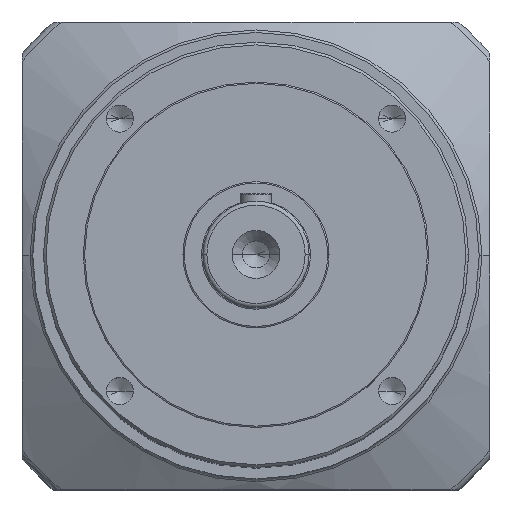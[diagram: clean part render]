
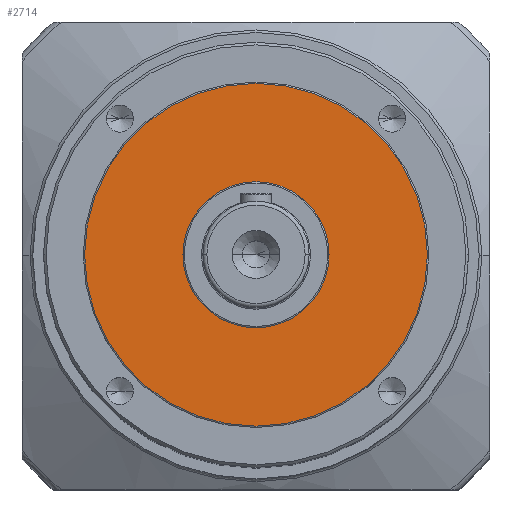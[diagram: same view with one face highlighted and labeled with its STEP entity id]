
A CAD part, top view. The second image highlights one B-rep face of the part: STEP entity #2714.
In plain terms, the highlighted planar face has unit normal (0, 0, 1).
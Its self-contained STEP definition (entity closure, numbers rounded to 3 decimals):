
#173 = FACE_OUTER_BOUND ( 'NONE', #3386, .T. ) ;
#426 = CARTESIAN_POINT ( 'NONE',  ( 0., 0., 5. ) ) ;
#799 = CARTESIAN_POINT ( 'NONE',  ( 27.5, 0., 5. ) ) ;
#817 = AXIS2_PLACEMENT_3D ( 'NONE', #4634, #1885, #5106 ) ;
#1298 = CARTESIAN_POINT ( 'NONE',  ( -64.5, 0., 5. ) ) ;
#1363 = DIRECTION ( 'NONE',  ( 0., 0., 1. ) ) ;
#1525 = AXIS2_PLACEMENT_3D ( 'NONE', #4824, #2072, #5293 ) ;
#1560 = ORIENTED_EDGE ( 'NONE', *, *, #3432, .T. ) ;
#1652 = CIRCLE ( 'NONE', #817, 27.5 ) ;
#1699 = CARTESIAN_POINT ( 'NONE',  ( -27.5, 0., 5. ) ) ;
#1725 = CARTESIAN_POINT ( 'NONE',  ( 64.5, 0., 5. ) ) ;
#1726 = EDGE_LOOP ( 'NONE', ( #4051, #5660 ) ) ;
#1777 = DIRECTION ( 'NONE',  ( 1., 0., 0. ) ) ;
#1823 = CARTESIAN_POINT ( 'NONE',  ( 0., 0., 5. ) ) ;
#1885 = DIRECTION ( 'NONE',  ( 0., 0., 1. ) ) ;
#1897 = CARTESIAN_POINT ( 'NONE',  ( 0., 0., 5. ) ) ;
#1953 = DIRECTION ( 'NONE',  ( 0., 0., 1. ) ) ;
#2044 = AXIS2_PLACEMENT_3D ( 'NONE', #426, #1363, #4585 ) ;
#2072 = DIRECTION ( 'NONE',  ( 0., 0., 1. ) ) ;
#2370 = DIRECTION ( 'NONE',  ( 1., 0., 0. ) ) ;
#2444 = EDGE_CURVE ( 'NONE', #5033, #3272, #4251, .T. ) ;
#2580 = EDGE_CURVE ( 'NONE', #3276, #5521, #3812, .T. ) ;
#2667 = FACE_BOUND ( 'NONE', #1726, .T. ) ;
#2714 = ADVANCED_FACE ( 'NONE', ( #2667, #173 ), #5510, .T. ) ;
#3272 = VERTEX_POINT ( 'NONE', #1725 ) ;
#3276 = VERTEX_POINT ( 'NONE', #799 ) ;
#3298 = AXIS2_PLACEMENT_3D ( 'NONE', #1897, #5122, #2370 ) ;
#3386 = EDGE_LOOP ( 'NONE', ( #1560, #3760 ) ) ;
#3432 = EDGE_CURVE ( 'NONE', #3272, #5033, #5604, .T. ) ;
#3760 = ORIENTED_EDGE ( 'NONE', *, *, #2444, .T. ) ;
#3812 = CIRCLE ( 'NONE', #1525, 27.5 ) ;
#3819 = AXIS2_PLACEMENT_3D ( 'NONE', #1823, #1953, #1777 ) ;
#4051 = ORIENTED_EDGE ( 'NONE', *, *, #2580, .F. ) ;
#4251 = CIRCLE ( 'NONE', #3819, 64.5 ) ;
#4585 = DIRECTION ( 'NONE',  ( 1., 0., 0. ) ) ;
#4634 = CARTESIAN_POINT ( 'NONE',  ( 0., 0., 5. ) ) ;
#4824 = CARTESIAN_POINT ( 'NONE',  ( 0., 0., 5. ) ) ;
#5033 = VERTEX_POINT ( 'NONE', #1298 ) ;
#5106 = DIRECTION ( 'NONE',  ( 1., 0., 0. ) ) ;
#5122 = DIRECTION ( 'NONE',  ( 0., 0., 1. ) ) ;
#5212 = EDGE_CURVE ( 'NONE', #5521, #3276, #1652, .T. ) ;
#5293 = DIRECTION ( 'NONE',  ( 1., 0., 0. ) ) ;
#5510 = PLANE ( 'NONE',  #2044 ) ;
#5521 = VERTEX_POINT ( 'NONE', #1699 ) ;
#5604 = CIRCLE ( 'NONE', #3298, 64.5 ) ;
#5660 = ORIENTED_EDGE ( 'NONE', *, *, #5212, .F. ) ;
